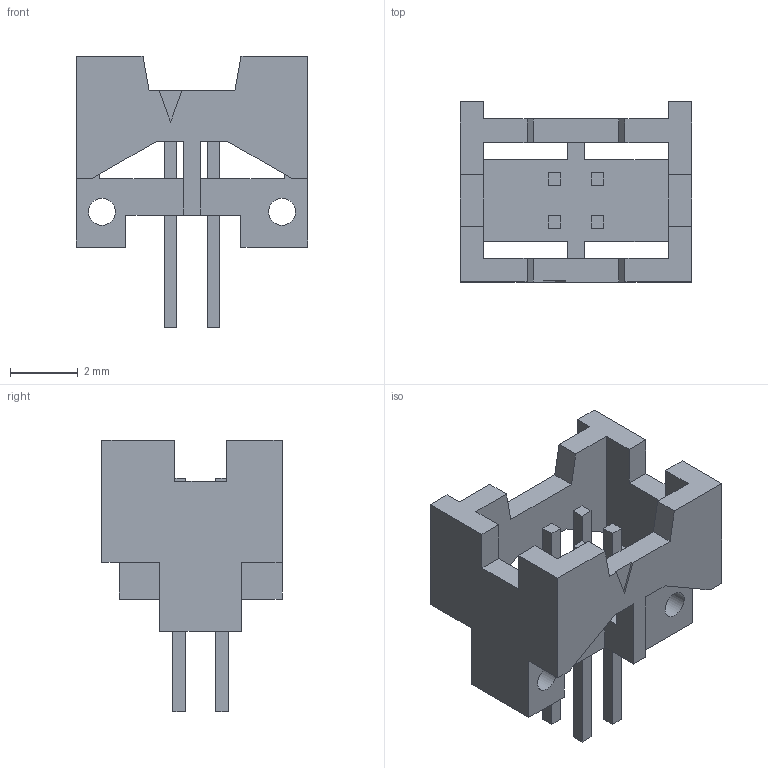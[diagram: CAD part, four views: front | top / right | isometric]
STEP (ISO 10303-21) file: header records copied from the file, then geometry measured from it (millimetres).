
FILE_DESCRIPTION(/* description */ (''),/* implementation_level */ '2;1');
FILE_NAME(/* name */ '78-5110-6160-4.stp',/* time_stamp */ '2013-09-25T14:16:00-05:00',/* author */ (''),/* organization */ (''),/* preprocessor_version */ 'ST-DEVELOPER v11',/* originating_system */ 'SIEMENS PLM Software NX 7.5',/* authorisation */ '');
FILE_SCHEMA (('AUTOMOTIVE_DESIGN { 1 0 10303 214 1 1 1 1 }'));
Length unit declared in the file: inch
Products named in the file (1): 78-5110-6160-4
Bounding box: 6.86 x 5.33 x 8.03 mm (x, y, z)
Volume: 70.6 mm3; surface area: 275.6 mm2
Topology: 1 solids, 1 shells, 103 faces, 299 edges, 198 vertices
Faces by surface type: plane 101, cylinder 2
Full cylindrical faces by diameter (mm): 0.8 x2
Entity records: 3347 total; most frequent: CARTESIAN_POINT 595, ORIENTED_EDGE 590, DIRECTION 507, EDGE_CURVE 295, LINE 291, VECTOR 291, VERTEX_POINT 196, EDGE_LOOP 117
